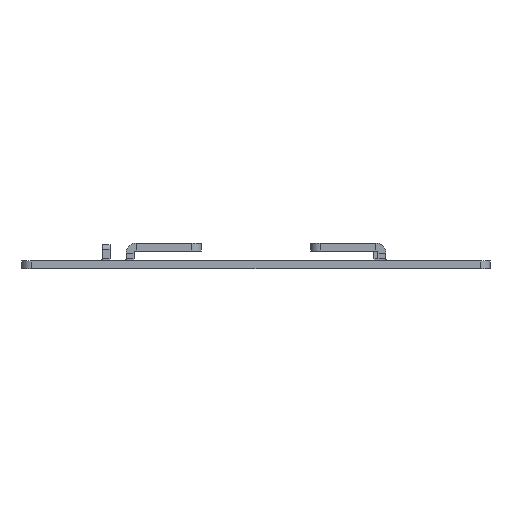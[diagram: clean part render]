
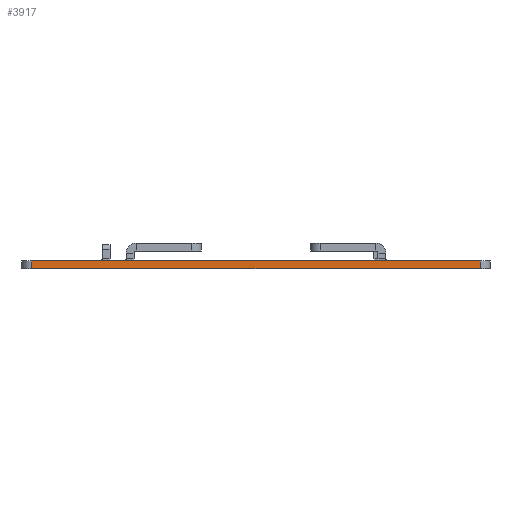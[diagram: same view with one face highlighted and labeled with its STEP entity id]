
A CAD part, front view. The second image highlights one B-rep face of the part: STEP entity #3917.
In plain terms, the highlighted planar face has unit normal (0, -1, 0).
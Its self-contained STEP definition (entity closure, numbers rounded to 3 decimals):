
#373=DIRECTION('',(1.,0.,0.));
#374=VECTOR('',#373,90.);
#375=CARTESIAN_POINT('',(-45.,-209.,0.));
#376=LINE('',#375,#374);
#548=DIRECTION('',(1.,0.,0.));
#549=VECTOR('',#548,90.);
#550=CARTESIAN_POINT('',(-45.,-209.,-1.6));
#551=LINE('',#550,#549);
#853=DIRECTION('',(0.,0.,1.));
#854=VECTOR('',#853,1.6);
#855=CARTESIAN_POINT('',(-45.,-209.,-1.6));
#856=LINE('',#855,#854);
#857=DIRECTION('',(0.,0.,1.));
#858=VECTOR('',#857,1.6);
#859=CARTESIAN_POINT('',(45.,-209.,-1.6));
#860=LINE('',#859,#858);
#2642=CARTESIAN_POINT('',(-45.,-209.,0.));
#2644=VERTEX_POINT('',#2642);
#2645=CARTESIAN_POINT('',(-45.,-209.,-1.6));
#2646=VERTEX_POINT('',#2645);
#2649=CARTESIAN_POINT('',(45.,-209.,0.));
#2651=VERTEX_POINT('',#2649);
#2655=CARTESIAN_POINT('',(45.,-209.,-1.6));
#2656=VERTEX_POINT('',#2655);
#3905=CARTESIAN_POINT('',(0.,-209.,-0.8));
#3906=DIRECTION('',(0.,-1.,0.));
#3907=DIRECTION('',(1.,0.,0.));
#3908=AXIS2_PLACEMENT_3D('',#3905,#3906,#3907);
#3909=PLANE('',#3908);
#3910=ORIENTED_EDGE('',*,*,#3898,.T.);
#3911=ORIENTED_EDGE('',*,*,#3012,.T.);
#3913=ORIENTED_EDGE('',*,*,#3912,.F.);
#3914=ORIENTED_EDGE('',*,*,#3251,.F.);
#3915=EDGE_LOOP('',(#3910,#3911,#3913,#3914));
#3916=FACE_OUTER_BOUND('',#3915,.F.);
#3012=EDGE_CURVE('',#2644,#2651,#376,.T.);
#3251=EDGE_CURVE('',#2646,#2656,#551,.T.);
#3898=EDGE_CURVE('',#2646,#2644,#856,.T.);
#3912=EDGE_CURVE('',#2656,#2651,#860,.T.);
#3917=ADVANCED_FACE('',(#3916),#3909,.T.);
